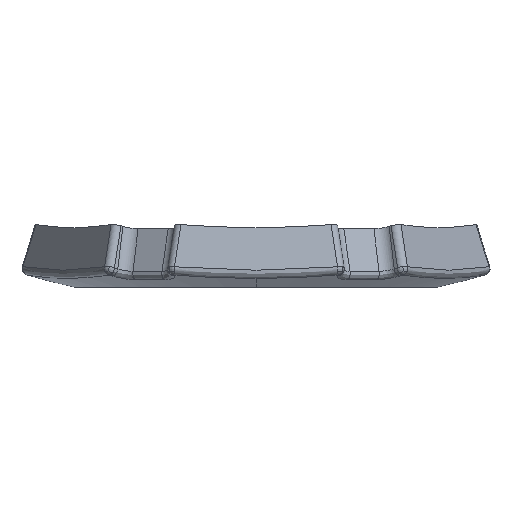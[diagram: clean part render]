
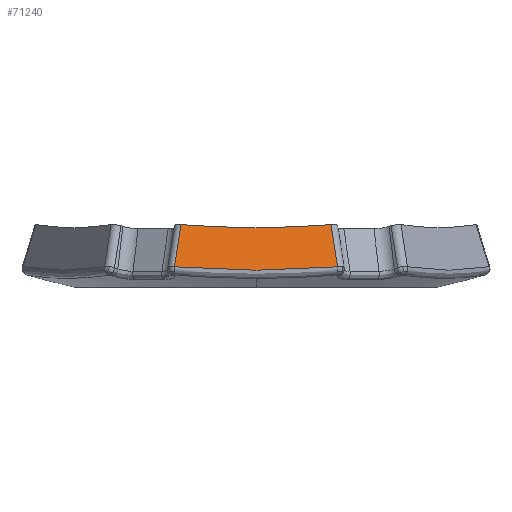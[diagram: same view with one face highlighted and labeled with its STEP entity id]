
A CAD part, left-side view. The second image highlights one B-rep face of the part: STEP entity #71240.
In plain terms, the highlighted planar face has unit normal (-0.966, 0, 0.259) as drawn and (0.259, 0, 0.966) by its records, which use the part's own axes.
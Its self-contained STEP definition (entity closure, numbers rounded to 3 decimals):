
#16620=CARTESIAN_POINT('',(-7.357,-187.238,
5.736));
#16630=DIRECTION('',(1.,0.,0.));
#16640=DIRECTION('',(0.,0.,1.));
#16650=AXIS2_PLACEMENT_3D('',#16620,#16630,#16640);
#16660=CONICAL_SURFACE('',#16650,15.764,1.334);
#18020=CARTESIAN_POINT('',(-7.138,-192.829,
21.444));
#18030=VERTEX_POINT('',#18020);
#18060=CARTESIAN_POINT('',(-11.029,-103.735,
22.486));
#18070=DIRECTION('',(-0.259,0.,
-0.966));
#18080=DIRECTION('',(0.,1.,0.));
#18090=AXIS2_PLACEMENT_3D('',#18060,#18070,#18080);
#18100=PLANE('',#18090);
#18110=CARTESIAN_POINT('',(-7.138,-192.829,
21.444));
#18120=CARTESIAN_POINT('',(-7.174,-192.364,
21.453));
#18130=CARTESIAN_POINT('',(-7.205,-191.899,
21.462));
#18140=CARTESIAN_POINT('',(-7.232,-191.433,
21.469));
#18150=CARTESIAN_POINT('',(-7.26,-190.968,
21.476));
#18160=CARTESIAN_POINT('',(-7.283,-190.502,
21.482));
#18170=CARTESIAN_POINT('',(-7.301,-190.036,
21.487));
#18180=CARTESIAN_POINT('',(-7.32,-189.57,
21.492));
#18190=CARTESIAN_POINT('',(-7.334,-189.103,
21.496));
#18200=CARTESIAN_POINT('',(-7.343,-188.637,
21.498));
#18210=CARTESIAN_POINT('',(-7.352,-188.171,
21.501));
#18220=CARTESIAN_POINT('',(-7.357,-187.704,
21.502));
#18230=CARTESIAN_POINT('',(-7.357,-187.238,
21.502));
#18240=B_SPLINE_CURVE_WITH_KNOTS('',3,(#18110,#18120,#18130,#18140,
#18150,#18160,#18170,#18180,#18190,#18200,#18210,#18220,#18230),
.UNSPECIFIED.,.F.,.F.,(4,3,3,3,4),(0.,1.399,2.799,
4.198,5.598),.UNSPECIFIED.);
#18250=SURFACE_CURVE('',#18240,(#18100,#16660),.CURVE_3D.);
#18260=CARTESIAN_POINT('',(-7.357,-187.238,
21.502));
#18270=VERTEX_POINT('',#18260);
#18280=EDGE_CURVE('',#18030,#18270,#18250,.T.);
#39950=CARTESIAN_POINT('',(-10.282,-181.16,
22.286));
#39960=VERTEX_POINT('',#39950);
#39990=CARTESIAN_POINT('',(-10.282,-193.316,
22.286));
#40000=CARTESIAN_POINT('',(-10.336,-192.642,
22.3));
#40010=CARTESIAN_POINT('',(-10.382,-191.967,
22.313));
#40020=CARTESIAN_POINT('',(-10.457,-190.617,
22.333));
#40030=CARTESIAN_POINT('',(-10.486,-189.942,
22.341));
#40040=CARTESIAN_POINT('',(-10.524,-188.59,
22.351));
#40050=CARTESIAN_POINT('',(-10.533,-187.914,
22.353));
#40060=CARTESIAN_POINT('',(-10.533,-186.562,
22.353));
#40070=CARTESIAN_POINT('',(-10.524,-185.886,
22.351));
#40080=CARTESIAN_POINT('',(-10.486,-184.534,
22.341));
#40090=CARTESIAN_POINT('',(-10.457,-183.859,
22.333));
#40100=CARTESIAN_POINT('',(-10.382,-182.509,
22.313));
#40110=CARTESIAN_POINT('',(-10.336,-181.834,
22.3));
#40120=CARTESIAN_POINT('',(-10.282,-181.16,
22.286));
#40130=B_SPLINE_CURVE_WITH_KNOTS('',3,(#39990,#40000,#40010,#40020,
#40030,#40040,#40050,#40060,#40070,#40080,#40090,#40100,#40110,#40120),
.UNSPECIFIED.,.F.,.F.,(4,2,2,2,2,2,4),(41.542,43.577
,45.612,47.648,49.683,51.718,
53.754),.UNSPECIFIED.);
#40140=CARTESIAN_POINT('',(-10.282,-193.316,
22.286));
#40150=VERTEX_POINT('',#40140);
#40160=EDGE_CURVE('',#40150,#39960,#40130,.T.);
#61750=CARTESIAN_POINT('',(-7.357,-187.238,
21.502));
#61760=CARTESIAN_POINT('',(-7.357,-186.772,
21.502));
#61770=CARTESIAN_POINT('',(-7.352,-186.305,
21.501));
#61780=CARTESIAN_POINT('',(-7.343,-185.839,
21.498));
#61790=CARTESIAN_POINT('',(-7.334,-185.373,
21.496));
#61800=CARTESIAN_POINT('',(-7.32,-184.906,
21.492));
#61810=CARTESIAN_POINT('',(-7.301,-184.44,
21.487));
#61820=CARTESIAN_POINT('',(-7.283,-183.974,
21.482));
#61830=CARTESIAN_POINT('',(-7.26,-183.508,
21.476));
#61840=CARTESIAN_POINT('',(-7.232,-183.042,
21.469));
#61850=CARTESIAN_POINT('',(-7.205,-182.577,
21.462));
#61860=CARTESIAN_POINT('',(-7.174,-182.111,
21.453));
#61870=CARTESIAN_POINT('',(-7.138,-181.646,
21.444));
#61880=B_SPLINE_CURVE_WITH_KNOTS('',3,(#61750,#61760,#61770,#61780,
#61790,#61800,#61810,#61820,#61830,#61840,#61850,#61860,#61870),
.UNSPECIFIED.,.F.,.F.,(4,3,3,3,4),(0.,1.399,2.798,
4.198,5.598),.UNSPECIFIED.);
#61890=SURFACE_CURVE('',#61880,(#18100,#16660),.CURVE_3D.);
#61900=CARTESIAN_POINT('',(-7.138,-181.646,
21.444));
#61910=VERTEX_POINT('',#61900);
#61920=EDGE_CURVE('',#18270,#61910,#61890,.T.);
#71070=ORIENTED_EDGE('',*,*,#61920,.T.);
#71080=ORIENTED_EDGE('',*,*,#18280,.T.);
#71090=CARTESIAN_POINT('',(-11.691,-193.534,
22.663));
#71100=DIRECTION('',(-0.955,-0.148,
0.256));
#71110=VECTOR('',#71100,1.);
#71120=LINE('',#71090,#71110);
#71130=EDGE_CURVE('',#18030,#40150,#71120,.T.);
#71140=ORIENTED_EDGE('',*,*,#71130,.F.);
#71150=ORIENTED_EDGE('',*,*,#40160,.F.);
#71160=CARTESIAN_POINT('',(-11.691,-180.942,
22.663));
#71170=DIRECTION('',(-0.955,0.148,
0.256));
#71180=VECTOR('',#71170,1.);
#71190=LINE('',#71160,#71180);
#71200=EDGE_CURVE('',#61910,#39960,#71190,.T.);
#71210=ORIENTED_EDGE('',*,*,#71200,.T.);
#71220=EDGE_LOOP('',(#71210,#71150,#71140,#71080,#71070));
#71230=FACE_OUTER_BOUND('',#71220,.T.);
#71240=ADVANCED_FACE('',(#71230),#18100,.F.);
